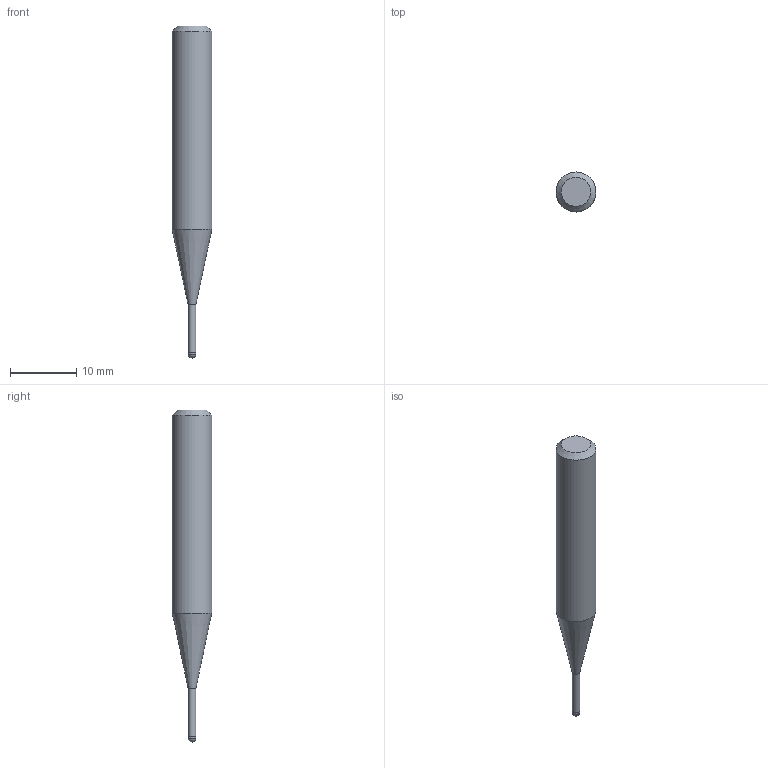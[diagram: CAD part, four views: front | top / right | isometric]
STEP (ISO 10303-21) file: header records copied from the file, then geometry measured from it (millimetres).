
FILE_DESCRIPTION((''),'2;1');
FILE_NAME('C:\Users\nsx150\AppData\Local\Temp\Mastercam 2021\3SYKECWX22\TEMP.step','2021-04-22T10:02:49',(''),(''),'STEP Write','Mastercam 2021 ... CNC Software, Inc.','');
FILE_SCHEMA(('AUTOMOTIVE_DESIGN'));
Length unit declared in the file: millimetre
Products named in the file (1): None
Bounding box: 6 x 6 x 50 mm (x, y, z)
Volume: 999.7 mm3; surface area: 757.4 mm2
Topology: 2 solids, 2 shells, 9 faces, 14 edges, 8 vertices
Faces by surface type: plane 3, cylinder 3, cone 2, sphere 1
Full cylindrical faces by diameter (mm): 1.15 x1, 1.2 x1, 6 x1
Entity records: 211 total; most frequent: DIRECTION 36, CARTESIAN_POINT 25, AXIS2_PLACEMENT_3D 18, ORIENTED_EDGE 14, EDGE_LOOP 14, STYLED_ITEM 12, ADVANCED_FACE 9, FACE_BOUND 8
